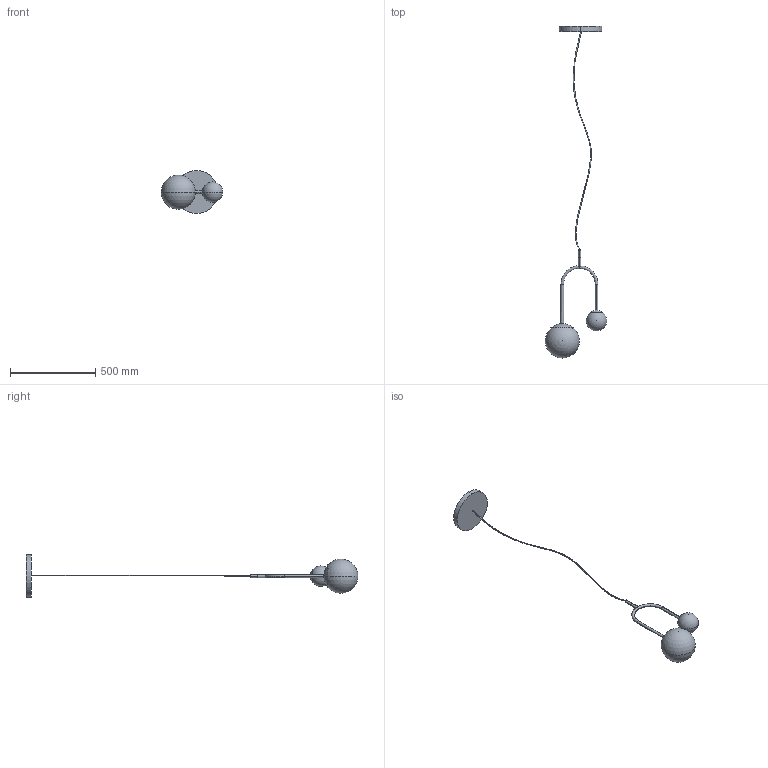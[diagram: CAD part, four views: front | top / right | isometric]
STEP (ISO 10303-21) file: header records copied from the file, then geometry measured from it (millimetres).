
FILE_DESCRIPTION (( 'STEP AP203' ), '1' );
FILE_NAME ('DEC01_Decor 1 sospensione.STEP', '2024-08-06T08:41:44', ( '' ), ( '' ), 'SwSTEP 2.0', 'SolidWorks 2022', '' );
FILE_SCHEMA (( 'CONFIG_CONTROL_DESIGN' ));
Length unit declared in the file: millimetre
Products named in the file (2): SOSPENSIONE7_decor sospensione 1; DEC01_Decor 1 sospensione
Assembly tree (1 placements, depth 2):
  DEC01_Decor 1 sospensione
    SOSPENSIONE7_decor sospensione 1
Bounding box: 360.24 x 1944.36 x 250 mm (x, y, z)
Volume: 6755598.1 mm3; surface area: 351424.4 mm2
Topology: 2 solids, 2 shells, 35 faces, 84 edges, 52 vertices
Faces by surface type: cylinder 10, sphere 8, plane 6, bspline 6, cone 5
Entity records: 2362 total; most frequent: CARTESIAN_POINT 1471, ORIENTED_EDGE 148, DIRECTION 145, EDGE_CURVE 74, AXIS2_PLACEMENT_3D 65, VERTEX_POINT 46, EDGE_LOOP 38, ADVANCED_FACE 35
